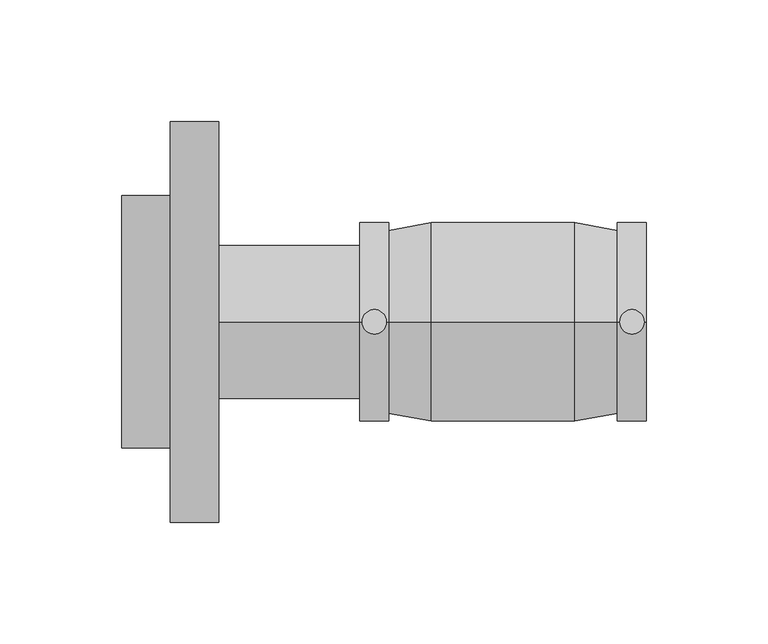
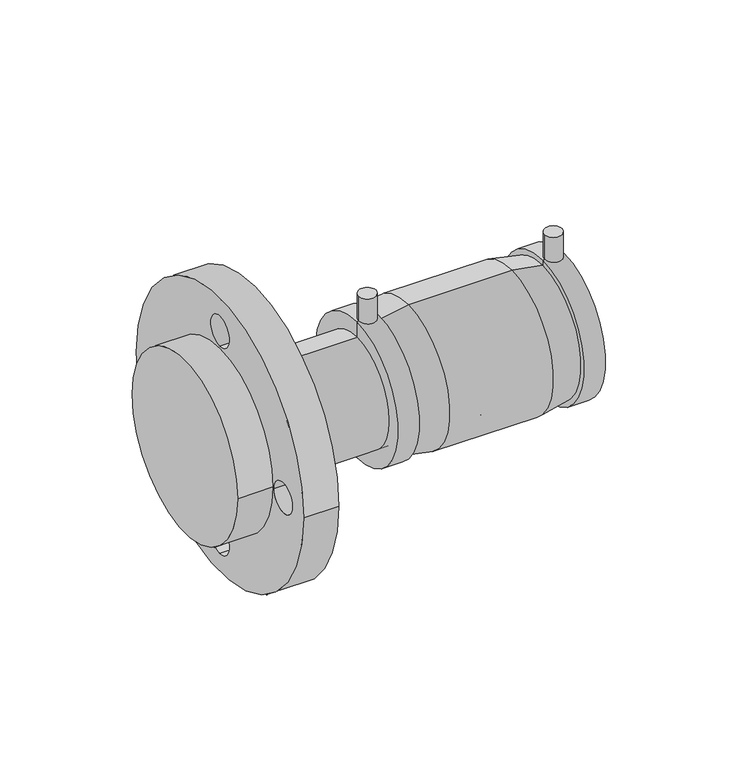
"""IFC4 building model written with IfcOpenShell, lengths in millimetres: pipe fitting geometry, Plumbing_Pipe-Fittings_Plasson_PE-Cast-Iron-Flange-Transition-Coupler_497704 : Plumbing_Pipe-Fittings_Plasson_PE-Cast-Iron-Flange-Transition-Coupler_497704."""

from ifc_helpers import new_model, si_unit, point, frame, frame_2d, origin, origin_2d, place, context, project, spatial, polyline, circle_curve, trimmed, segment, composite_curve, outline, extrude, source, transform, mapped, element, save
from ifc_brep_helpers import plane_surface, cylinder_surface, revolved_surface, advanced_brep


def pipe_fitting_7a712ac6(model_context):
    return source(origin(), model_context, "Body", "SolidModel", [
        extrude(outline(composite_curve([segment(trimmed(circle_curve(origin_2d(), 52.0), [point((52.0, 0.0))], [point((-52.0, 0.0))], False, "CARTESIAN"), True, "CONTINUOUS"), segment(trimmed(circle_curve(origin_2d(), 52.0), [point((-52.0, 0.0))], [point((52.0, 0.0))], False, "CARTESIAN"), True, "CONTINUOUS")], self_intersect=False)), frame((-157.0, 0.0, 0.0), z_axis=(1.0, 0.0, 0.0), x_axis=(0.0, 1.0, 0.0)), (0.0, 0.0, 1.0), 20.0),
        extrude(outline(composite_curve([segment(trimmed(circle_curve(origin_2d(), 82.5), [point((82.5, 0.0))], [point((-82.5, 0.0))], False, "CARTESIAN"), True, "CONTINUOUS"), segment(trimmed(circle_curve(origin_2d(), 82.5), [point((-82.5, 0.0))], [point((82.5, 0.0))], False, "CARTESIAN"), True, "CONTINUOUS")], self_intersect=False), holes=[composite_curve([segment(trimmed(circle_curve(frame_2d((62.5, 0.0)), 9.0), [point((53.5, 0.0))], [point((71.5, 0.0))], True, "CARTESIAN"), True, "CONTINUOUS"), segment(trimmed(circle_curve(frame_2d((62.5, 0.0)), 9.0), [point((71.5, 0.0))], [point((53.5, 0.0))], True, "CARTESIAN"), True, "CONTINUOUS")], self_intersect=False), composite_curve([segment(trimmed(circle_curve(frame_2d((0.0, 62.5)), 9.0), [point((0.0, 53.5))], [point((0.0, 71.5))], True, "CARTESIAN"), True, "CONTINUOUS"), segment(trimmed(circle_curve(frame_2d((0.0, 62.5)), 9.0), [point((0.0, 71.5))], [point((0.0, 53.5))], True, "CARTESIAN"), True, "CONTINUOUS")], self_intersect=False), composite_curve([segment(trimmed(circle_curve(frame_2d((0.0, -62.5)), 9.0), [point((0.0, -53.5))], [point((0.0, -71.5))], True, "CARTESIAN"), True, "CONTINUOUS"), segment(trimmed(circle_curve(frame_2d((0.0, -62.5)), 9.0), [point((0.0, -71.5))], [point((0.0, -53.5))], True, "CARTESIAN"), True, "CONTINUOUS")], self_intersect=False), composite_curve([segment(trimmed(circle_curve(frame_2d((-62.5, 0.0)), 9.0), [point((-53.5, 0.0))], [point((-71.5, 0.0))], True, "CARTESIAN"), True, "CONTINUOUS"), segment(trimmed(circle_curve(frame_2d((-62.5, 0.0)), 9.0), [point((-71.5, 0.0))], [point((-53.5, 0.0))], True, "CARTESIAN"), True, "CONTINUOUS")], self_intersect=False)]), frame((-137.0, 0.0, 0.0), z_axis=(1.0, 0.0, 0.0), x_axis=(0.0, 1.0, 0.0)), (0.0, 0.0, 1.0), 20.0),
        advanced_brep(
        [(-117.0, 0.0, -31.5), (-117.0, 0.0, 31.5), (-1.0, 0.0, 31.5), (-1.0, 0.0, -31.5), (-117.0, 0.0, 0.0), (-1.0, 0.0, 0.0)],
        [
            (0, 1, circle_curve(frame((-117.0, 0.0, 0.0), z_axis=(1.0, 0.0, 0.0), x_axis=(0.0, 0.0, 1.0)), 31.5)),
            (1, 2),
            (2, 3, circle_curve(frame((-1.0, 0.0, 0.0), z_axis=(-1.0, 0.0, 0.0), x_axis=(0.0, 0.0, 1.0)), 31.5)),
            (3, 0),
            (1, 0, circle_curve(frame((-117.0, 0.0, 0.0), z_axis=(1.0, 0.0, 0.0), x_axis=(0.0, 0.0, 1.0)), 31.5)),
            (3, 2, circle_curve(frame((-1.0, 0.0, 0.0), z_axis=(-1.0, 0.0, 0.0), x_axis=(0.0, 0.0, 1.0)), 31.5)),
            (4, 1),
            (0, 4),
            (2, 5),
            (5, 3),
        ],
        [
            cylinder_surface(frame((-127.0, 0.0, 0.0), z_axis=(-1.0, 0.0, 0.0), x_axis=(0.0, 0.0, 1.0)), 31.5),
            plane_surface(frame((-117.0, 0.0, 0.0), z_axis=(-1.0, 0.0, 0.0), x_axis=(0.0, 0.0, 1.0))),
            plane_surface(frame((-1.0, 0.0, 0.0), z_axis=(1.0, 0.0, 0.0), x_axis=(0.0, 0.0, 1.0))),
        ],
        [
            (0, [[1, 2, 3, 4]]),
            (0, [[5, -4, 6, -2]]),
            (1, [[7, -1, 8]]),
            (1, [[-8, -5, -7]]),
            (2, [[-3, 9, 10]]),
            (2, [[-6, -10, -9]]),
        ],
    ),
        advanced_brep(
        [(-1.0, 0.0, -31.5), (-1.0, 0.0, 31.5), (-59.0, 0.0, 31.5), (-59.0, 0.0, -31.5), (-1.0, 0.0, -28.5), (-1.0, 0.0, 28.5), (1.0, 0.0, -28.5), (1.0, 0.0, 28.5), (1.0, 0.0, -31.5), (1.0, 0.0, 31.5), (59.0, 0.0, -31.5), (59.0, 0.0, 31.5), (59.0, 0.0, -41.0), (59.0, 0.0, 41.0), (47.0, 0.0, -41.0), (47.0, 0.0, 41.0), (47.0, 0.0, -37.8333333), (47.0, 0.0, 37.8333333), (29.5, 0.0, -41.0), (29.5, 0.0, 41.0), (-29.5, 0.0, -41.0), (-29.5, 0.0, 41.0), (-47.0, 0.0, -37.8333333), (-47.0, 0.0, 37.8333333), (-47.0, 0.0, -41.0), (-47.0, 0.0, 41.0), (-59.0, 0.0, -41.0), (-59.0, 0.0, 41.0)],
        [
            (0, 1, circle_curve(frame((-1.0, 0.0, 0.0), z_axis=(1.0, 0.0, 0.0), x_axis=(0.0, 0.0, 1.0)), 31.5)),
            (1, 2),
            (2, 3, circle_curve(frame((-59.0, 0.0, 0.0), z_axis=(-1.0, 0.0, 0.0), x_axis=(0.0, 0.0, 1.0)), 31.5)),
            (3, 0),
            (1, 0, circle_curve(frame((-1.0, 0.0, 0.0), z_axis=(1.0, 0.0, 0.0), x_axis=(0.0, 0.0, 1.0)), 31.5)),
            (3, 2, circle_curve(frame((-59.0, 0.0, 0.0), z_axis=(-1.0, 0.0, 0.0), x_axis=(0.0, 0.0, 1.0)), 31.5)),
            (4, 5, circle_curve(frame((-1.0, 0.0, 0.0), z_axis=(1.0, 0.0, 0.0), x_axis=(0.0, 0.0, 1.0)), 28.5)),
            (5, 1),
            (0, 4),
            (5, 4, circle_curve(frame((-1.0, 0.0, 0.0), z_axis=(1.0, 0.0, 0.0), x_axis=(0.0, 0.0, 1.0)), 28.5)),
            (6, 7, circle_curve(frame((1.0, 0.0, 0.0), z_axis=(1.0, 0.0, 0.0), x_axis=(0.0, 0.0, 1.0)), 28.5)),
            (7, 5),
            (4, 6),
            (7, 6, circle_curve(frame((1.0, 0.0, 0.0), z_axis=(1.0, 0.0, 0.0), x_axis=(0.0, 0.0, 1.0)), 28.5)),
            (8, 9, circle_curve(frame((1.0, 0.0, 0.0), z_axis=(1.0, 0.0, 0.0), x_axis=(0.0, 0.0, 1.0)), 31.5)),
            (9, 7),
            (6, 8),
            (9, 8, circle_curve(frame((1.0, 0.0, 0.0), z_axis=(1.0, 0.0, 0.0), x_axis=(0.0, 0.0, 1.0)), 31.5)),
            (10, 11, circle_curve(frame((59.0, 0.0, 0.0), z_axis=(1.0, 0.0, 0.0), x_axis=(0.0, 0.0, 1.0)), 31.5)),
            (11, 9),
            (8, 10),
            (11, 10, circle_curve(frame((59.0, 0.0, 0.0), z_axis=(1.0, 0.0, 0.0), x_axis=(0.0, 0.0, 1.0)), 31.5)),
            (12, 13, circle_curve(frame((59.0, 0.0, 0.0), z_axis=(1.0, 0.0, 0.0), x_axis=(0.0, 0.0, 1.0)), 41.0)),
            (13, 11),
            (10, 12),
            (13, 12, circle_curve(frame((59.0, 0.0, 0.0), z_axis=(1.0, 0.0, 0.0), x_axis=(0.0, 0.0, 1.0)), 41.0)),
            (14, 15, circle_curve(frame((47.0, 0.0, 0.0), z_axis=(1.0, 0.0, 0.0), x_axis=(0.0, 0.0, 1.0)), 41.0)),
            (15, 13),
            (12, 14),
            (15, 14, circle_curve(frame((47.0, 0.0, 0.0), z_axis=(1.0, 0.0, 0.0), x_axis=(0.0, 0.0, 1.0)), 41.0)),
            (16, 17, circle_curve(frame((47.0, 0.0, 0.0), z_axis=(1.0, 0.0, 0.0), x_axis=(0.0, 0.0, 1.0)), 37.8333333)),
            (17, 15),
            (14, 16),
            (17, 16, circle_curve(frame((47.0, 0.0, 0.0), z_axis=(1.0, 0.0, 0.0), x_axis=(0.0, 0.0, 1.0)), 37.8333333)),
            (18, 19, circle_curve(frame((29.5, 0.0, 0.0), z_axis=(1.0, 0.0, 0.0), x_axis=(0.0, 0.0, 1.0)), 41.0)),
            (19, 17),
            (16, 18),
            (19, 18, circle_curve(frame((29.5, 0.0, 0.0), z_axis=(1.0, 0.0, 0.0), x_axis=(0.0, 0.0, 1.0)), 41.0)),
            (20, 21, circle_curve(frame((-29.5, 0.0, 0.0), z_axis=(1.0, 0.0, 0.0), x_axis=(0.0, 0.0, 1.0)), 41.0)),
            (21, 19),
            (18, 20),
            (21, 20, circle_curve(frame((-29.5, 0.0, 0.0), z_axis=(1.0, 0.0, 0.0), x_axis=(0.0, 0.0, 1.0)), 41.0)),
            (22, 23, circle_curve(frame((-47.0, 0.0, 0.0), z_axis=(1.0, 0.0, 0.0), x_axis=(0.0, 0.0, 1.0)), 37.8333333)),
            (23, 21),
            (20, 22),
            (23, 22, circle_curve(frame((-47.0, 0.0, 0.0), z_axis=(1.0, 0.0, 0.0), x_axis=(0.0, 0.0, 1.0)), 37.8333333)),
            (24, 25, circle_curve(frame((-47.0, 0.0, 0.0), z_axis=(1.0, 0.0, 0.0), x_axis=(0.0, 0.0, 1.0)), 41.0)),
            (25, 23),
            (22, 24),
            (25, 24, circle_curve(frame((-47.0, 0.0, 0.0), z_axis=(1.0, 0.0, 0.0), x_axis=(0.0, 0.0, 1.0)), 41.0)),
            (26, 27, circle_curve(frame((-59.0, 0.0, 0.0), z_axis=(1.0, 0.0, 0.0), x_axis=(0.0, 0.0, 1.0)), 41.0)),
            (27, 25),
            (24, 26),
            (27, 26, circle_curve(frame((-59.0, 0.0, 0.0), z_axis=(1.0, 0.0, 0.0), x_axis=(0.0, 0.0, 1.0)), 41.0)),
            (2, 27),
            (26, 3),
        ],
        [
            revolved_surface(polyline([(-59.0, 0.0, 31.5), (-1.0, 0.0, 31.5)]), (-59.0, 0.0, 0.0), (-1.0, 0.0, 0.0)),
            plane_surface(frame((-1.0, 0.0, 0.0), z_axis=(-1.0, 0.0, 0.0), x_axis=(0.0, 0.0, 1.0))),
            revolved_surface(polyline([(-1.0, 0.0, 28.5), (1.0, 0.0, 28.5)]), (-59.0, 0.0, 0.0), (-1.0, 0.0, 0.0)),
            plane_surface(frame((1.0, 0.0, 0.0), z_axis=(1.0, 0.0, 0.0), x_axis=(0.0, 0.0, 1.0))),
            revolved_surface(polyline([(1.0, 0.0, 31.5), (59.0, 0.0, 31.5)]), (-59.0, 0.0, 0.0), (-1.0, 0.0, 0.0)),
            plane_surface(frame((59.0, 0.0, 0.0), z_axis=(1.0, 0.0, 0.0), x_axis=(0.0, 0.0, 1.0))),
            cylinder_surface(frame((-59.0, 0.0, 0.0), z_axis=(-1.0, 0.0, 0.0), x_axis=(0.0, 0.0, 1.0)), 41.0),
            plane_surface(frame((47.0, 0.0, 0.0), z_axis=(-1.0, 0.0, 0.0), x_axis=(0.0, 0.0, 1.0))),
            revolved_surface(polyline([(47.0, 0.0, 37.8333333), (29.5, 0.0, 41.0)]), (-59.0, 0.0, 0.0), (-1.0, 0.0, 0.0)),
            revolved_surface(polyline([(-29.5, 0.0, 41.0), (-47.0, 0.0, 37.8333333)]), (-59.0, 0.0, 0.0), (-1.0, 0.0, 0.0)),
            plane_surface(frame((-47.0, 0.0, 0.0), z_axis=(1.0, 0.0, 0.0), x_axis=(0.0, 0.0, 1.0))),
            plane_surface(frame((-59.0, 0.0, 0.0), z_axis=(-1.0, 0.0, 0.0), x_axis=(0.0, 0.0, 1.0))),
        ],
        [
            (0, [[1, 2, 3, 4]]),
            (0, [[5, -4, 6, -2]]),
            (1, [[7, 8, -1, 9]]),
            (1, [[10, -9, -5, -8]]),
            (2, [[11, 12, -7, 13]]),
            (2, [[14, -13, -10, -12]]),
            (3, [[15, 16, -11, 17]]),
            (3, [[18, -17, -14, -16]]),
            (4, [[19, 20, -15, 21]]),
            (4, [[22, -21, -18, -20]]),
            (5, [[23, 24, -19, 25]]),
            (5, [[26, -25, -22, -24]]),
            (6, [[27, 28, -23, 29]]),
            (6, [[30, -29, -26, -28]]),
            (7, [[31, 32, -27, 33]]),
            (7, [[34, -33, -30, -32]]),
            (8, [[35, 36, -31, 37]]),
            (8, [[38, -37, -34, -36]]),
            (6, [[39, 40, -35, 41]]),
            (6, [[42, -41, -38, -40]]),
            (9, [[43, 44, -39, 45]]),
            (9, [[46, -45, -42, -44]]),
            (10, [[47, 48, -43, 49]]),
            (10, [[50, -49, -46, -48]]),
            (6, [[51, 52, -47, 53]]),
            (6, [[54, -53, -50, -52]]),
            (11, [[-3, 55, -51, 56]]),
            (11, [[-6, -56, -54, -55]]),
        ],
    ),
        extrude(outline(composite_curve([segment(trimmed(circle_curve(frame_2d((-53.0, 0.0)), 5.0), [point((-58.0, 0.0))], [point((-48.0, 0.0))], False, "CARTESIAN"), True, "CONTINUOUS"), segment(trimmed(circle_curve(frame_2d((-53.0, 0.0)), 5.0), [point((-48.0, 0.0))], [point((-58.0, 0.0))], False, "CARTESIAN"), True, "CONTINUOUS")], self_intersect=False)), frame((0.0, 0.0, 36.25), z_axis=(0.0, 0.0, 1.0), x_axis=(1.0, 0.0, 0.0)), (0.0, 0.0, 1.0), 19.75),
        extrude(outline(composite_curve([segment(trimmed(circle_curve(frame_2d((53.0, 0.0)), 5.0), [point((48.0, 0.0))], [point((58.0, 0.0))], False, "CARTESIAN"), True, "CONTINUOUS"), segment(trimmed(circle_curve(frame_2d((53.0, 0.0)), 5.0), [point((58.0, 0.0))], [point((48.0, 0.0))], False, "CARTESIAN"), True, "CONTINUOUS")], self_intersect=False)), frame((0.0, 0.0, 36.25), z_axis=(0.0, 0.0, 1.0), x_axis=(1.0, 0.0, 0.0)), (0.0, 0.0, 1.0), 19.75),
    ])


if __name__ == "__main__":
    model = new_model("IFC4")
    model_context = context("Model", 3, world=origin())
    ifc_project = project(units=[si_unit("LENGTHUNIT", "METRE", prefix="MILLI")], contexts=[model_context])
    site = spatial("IfcSite", under=ifc_project)
    building = spatial("IfcBuilding", under=site)
    placement = place(None, origin())
    pipe_fitting_shape = pipe_fitting_7a712ac6(model_context)
    element("IfcPipeFitting", 1, ObjectType="Plumbing_Pipe-Fittings_Plasson_PE-Cast-Iron-Flange-Transition-Coupler_497704 : Plumbing_Pipe-Fittings_Plasson_PE-Cast-Iron-Flange-Transition-Coupler_497704", at=placement, inside=building, context=model_context, shape_type="MappedRepresentation", body=[
        mapped(pipe_fitting_shape, transform((0.0, 0.0, 0.0), x_axis=(1.0, 0.0, 0.0), y_axis=(0.0, 1.0, 0.0), z_axis=(0.0, 0.0, 1.0))),
    ])
    save(model, "model.ifc")
